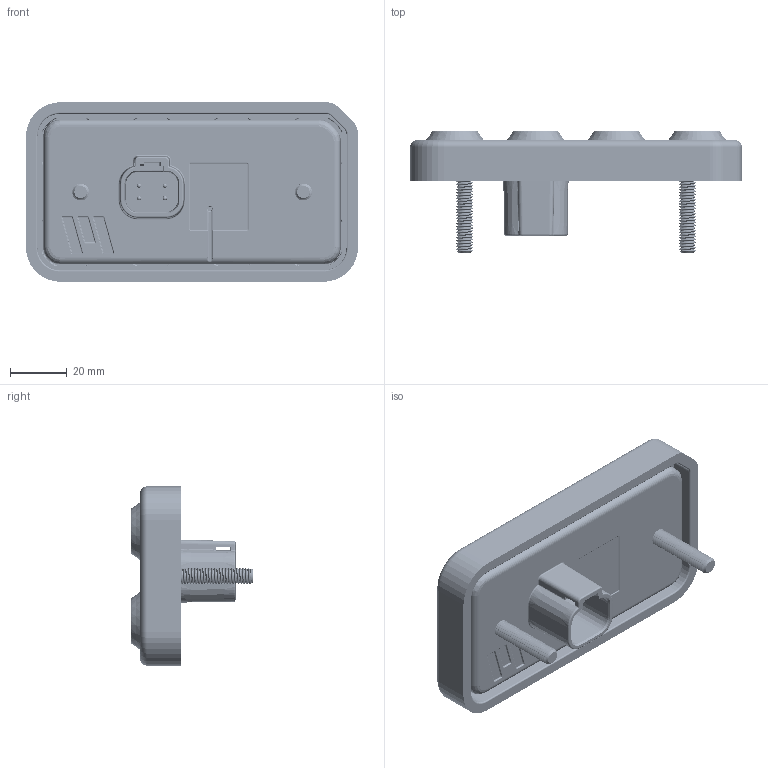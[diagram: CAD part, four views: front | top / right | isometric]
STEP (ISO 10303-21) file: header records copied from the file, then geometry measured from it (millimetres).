
FILE_DESCRIPTION (( 'STEP AP214' ), '1' );
FILE_NAME ('505220.STEP', '2025-06-12T18:15:24', ( '' ), ( '' ), 'SwSTEP 2.0', 'SolidWorks 2024', '' );
FILE_SCHEMA (( 'AUTOMOTIVE_DESIGN' ));
Length unit declared in the file: inch
Products named in the file (8): 14062DA; Round Icon; 505220; LightWall_8; Molded_Connector_Pin; 93580A728_Press-Fit Studs_30mm_93580A728; 14063DA; 14061DA
Assembly tree (18 placements, depth 2):
  505220
    14062DA
    Molded_Connector_Pin  x4
    93580A728_Press-Fit Studs_30mm_93580A728  x2
    14063DA
    14061DA
    LightWall_8
    Round Icon  x8
Bounding box: 117.47 x 43.07 x 63.5 mm (x, y, z)
Volume: 61387.9 mm3; surface area: 70331.3 mm2
Topology: 18 solids, 18 shells, 4262 faces, 10529 edges, 6021 vertices
Faces by surface type: cylinder 1494, plane 954, torus 878, bspline 373, sphere 321, cone 242
Entity records: 154993 total; most frequent: CARTESIAN_POINT 33625, DIRECTION 18927, ORIENTED_EDGE 17772, EDGE_CURVE 8886, AXIS2_PLACEMENT_3D 7611, VERTEX_POINT 5241, CIRCLE 4266, EDGE_LOOP 3779
